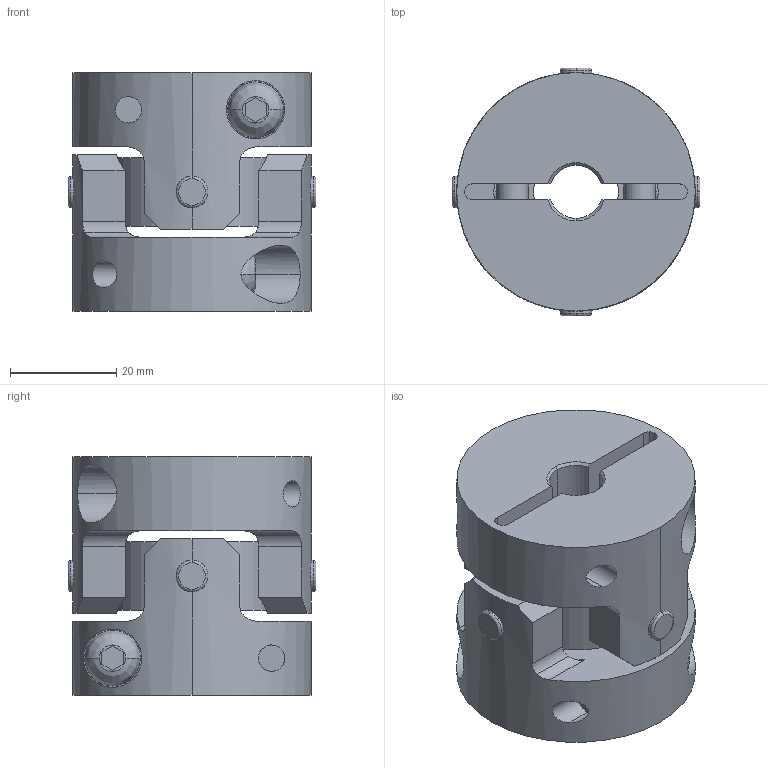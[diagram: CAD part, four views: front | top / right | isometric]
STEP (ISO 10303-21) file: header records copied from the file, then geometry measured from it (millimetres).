
FILE_DESCRIPTION((''),'2;1');
FILE_NAME('UA-45C-10×17.stp','2013-05-22T09:52:13',(''),(''),'AutoCAD STEP 2000i','AutoCAD 2000i',', , ');
FILE_SCHEMA(('CONFIG_CONTROL_DESIGN'));
Length unit declared in the file: millimetre
Products named in the file (7): UA-45C-8×17; 忣兜1; UA-4502-D17; BTN-M6; UA-4502-D08-1; UA-4502-D08; UA45-SEN
Assembly tree (8 placements, depth 3):
  UA-45C-8×17
    忣兜1
    UA-4502-D17
      BTN-M6
    UA-4502-D08-1
      BTN-M6
    UA-4502-D08
      BTN-M6
    UA45-SEN
Bounding box: 46.73 x 46.73 x 45 mm (x, y, z)
Volume: 49834.6 mm3; surface area: 19867.1 mm2
Topology: 1 solids, 1 shells, 206 faces, 554 edges, 364 vertices
Faces by surface type: cylinder 96, plane 78, cone 16, bspline 8, torus 8
Entity records: 8537 total; most frequent: CARTESIAN_POINT 3201, ORIENTED_EDGE 1108, DIRECTION 1068, EDGE_CURVE 554, AXIS2_PLACEMENT_3D 411, VERTEX_POINT 364, VECTOR 246, LINE 246
